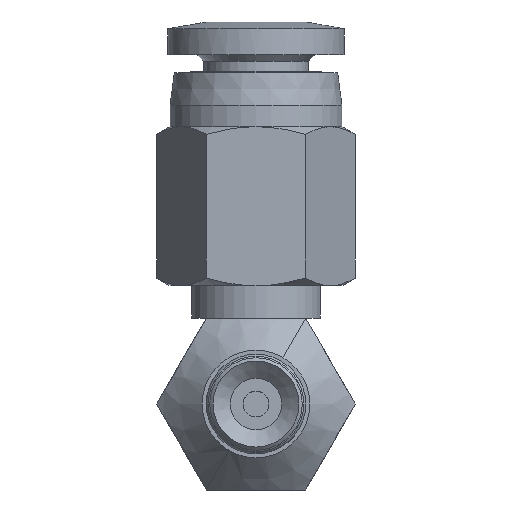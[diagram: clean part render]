
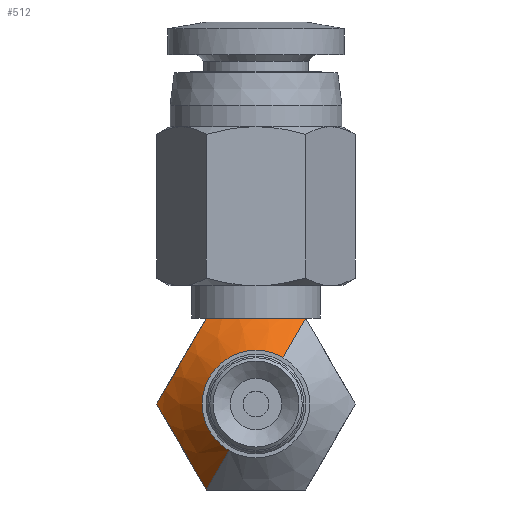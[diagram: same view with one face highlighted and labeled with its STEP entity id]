
A CAD part, front view. The second image highlights one B-rep face of the part: STEP entity #512.
In plain terms, the highlighted conical face has half-angle 45 degrees and reference radius 2.5 mm.
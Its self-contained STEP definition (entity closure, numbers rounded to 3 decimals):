
#512=ADVANCED_FACE('',(#753),#754,.T.);
#753=FACE_OUTER_BOUND('',#1163,.T.);
#754=CONICAL_SURFACE('',#1164,2.5,0.785);
#1163=EDGE_LOOP('',(#2076,#2077,#2078,#2079,#2080,#2081));
#1164=AXIS2_PLACEMENT_3D('',#2082,#2083,#2084);
#2076=ORIENTED_EDGE('',*,*,#2987,.F.);
#2077=ORIENTED_EDGE('',*,*,#2988,.T.);
#2078=ORIENTED_EDGE('',*,*,#2978,.F.);
#2079=ORIENTED_EDGE('',*,*,#2989,.F.);
#2080=ORIENTED_EDGE('',*,*,#2983,.F.);
#2081=ORIENTED_EDGE('',*,*,#2990,.F.);
#2082=CARTESIAN_POINT('',(0.0,0.,0.0));
#2083=DIRECTION('',(-0.0,1.0,0.0));
#2084=DIRECTION('',(0.866,0.0,-0.5));
#2978=EDGE_CURVE('',#3391,#3369,#3392,.T.);
#2983=EDGE_CURVE('',#3400,#3401,#3402,.T.);
#2987=EDGE_CURVE('',#3407,#3408,#3409,.T.);
#2988=EDGE_CURVE('',#3407,#3369,#3410,.T.);
#2989=EDGE_CURVE('',#3401,#3391,#3411,.T.);
#2990=EDGE_CURVE('',#3408,#3400,#3412,.T.);
#3369=VERTEX_POINT('',#4044);
#3391=VERTEX_POINT('',#4094);
#3392=B_SPLINE_CURVE_WITH_KNOTS('',3,(#4095,#4096,#4097,#4098,#4099,#4100,#4101,#4102,#4103,#4104,#4105,#4106),.UNSPECIFIED.,.F.,.F.,(4,2,2,2,2,4),(0.0,0.001,0.002,0.002,0.004,0.005),.UNSPECIFIED.);
#3400=VERTEX_POINT('',#4121);
#3401=VERTEX_POINT('',#4122);
#3402=B_SPLINE_CURVE_WITH_KNOTS('',3,(#4123,#4124,#4125,#4126,#4127,#4128,#4129,#4130,#4131,#4132,#4133,#4134),.UNSPECIFIED.,.F.,.F.,(4,2,2,2,2,4),(0.0,0.001,0.002,0.002,0.004,0.005),.UNSPECIFIED.);
#3407=VERTEX_POINT('',#4144);
#3408=VERTEX_POINT('',#4145);
#3409=CIRCLE('',#4146,2.5);
#3410=LINE('',#4147,#4148);
#3411=B_SPLINE_CURVE_WITH_KNOTS('',3,(#4149,#4150,#4151,#4152,#4153,#4154,#4155,#4156,#4157,#4158,#4159,#4160),.UNSPECIFIED.,.F.,.F.,(4,2,2,2,2,4),(0.,0.001,0.002,0.002,0.004,0.005),.UNSPECIFIED.);
#3412=LINE('',#4161,#4162);
#4044=CARTESIAN_POINT('',(2.309,2.119,4.0));
#4094=CARTESIAN_POINT('',(-2.309,2.119,4.0));
#4095=CARTESIAN_POINT('',(-2.309,2.119,4.0));
#4096=CARTESIAN_POINT('',(-1.949,1.938,4.0));
#4097=CARTESIAN_POINT('',(-1.58,1.785,4.0));
#4098=CARTESIAN_POINT('',(-1.006,1.621,4.0));
#4099=CARTESIAN_POINT('',(-0.812,1.577,4.0));
#4100=CARTESIAN_POINT('',(-0.415,1.517,4.0));
#4101=CARTESIAN_POINT('',(-0.21,1.5,4.0));
#4102=CARTESIAN_POINT('',(0.395,1.499,4.0));
#4103=CARTESIAN_POINT('',(0.791,1.56,4.0));
#4104=CARTESIAN_POINT('',(1.573,1.782,4.0));
#4105=CARTESIAN_POINT('',(1.946,1.937,4.0));
#4106=CARTESIAN_POINT('',(2.309,2.119,4.0));
#4121=CARTESIAN_POINT('',(-2.309,2.119,-4.0));
#4122=CARTESIAN_POINT('',(-4.619,2.119,0.));
#4123=CARTESIAN_POINT('',(-2.309,2.119,-4.0));
#4124=CARTESIAN_POINT('',(-2.49,1.938,-3.687));
#4125=CARTESIAN_POINT('',(-2.674,1.785,-3.368));
#4126=CARTESIAN_POINT('',(-2.961,1.621,-2.871));
#4127=CARTESIAN_POINT('',(-3.058,1.577,-2.703));
#4128=CARTESIAN_POINT('',(-3.257,1.517,-2.359));
#4129=CARTESIAN_POINT('',(-3.359,1.5,-2.182));
#4130=CARTESIAN_POINT('',(-3.661,1.499,-1.658));
#4131=CARTESIAN_POINT('',(-3.86,1.56,-1.315));
#4132=CARTESIAN_POINT('',(-4.25,1.782,-0.638));
#4133=CARTESIAN_POINT('',(-4.437,1.937,-0.314));
#4134=CARTESIAN_POINT('',(-4.619,2.119,0.));
#4144=CARTESIAN_POINT('',(1.25,0.,2.165));
#4145=CARTESIAN_POINT('',(-1.25,0.,-2.165));
#4146=AXIS2_PLACEMENT_3D('',#5071,#5072,#5073);
#4147=CARTESIAN_POINT('',(1.78,1.059,3.083));
#4148=VECTOR('',#5074,1.0);
#4149=CARTESIAN_POINT('',(-4.619,2.119,0.0));
#4150=CARTESIAN_POINT('',(-4.438,1.938,0.313));
#4151=CARTESIAN_POINT('',(-4.254,1.785,0.632));
#4152=CARTESIAN_POINT('',(-3.967,1.621,1.129));
#4153=CARTESIAN_POINT('',(-3.87,1.577,1.297));
#4154=CARTESIAN_POINT('',(-3.671,1.517,1.641));
#4155=CARTESIAN_POINT('',(-3.569,1.5,1.818));
#4156=CARTESIAN_POINT('',(-3.267,1.499,2.342));
#4157=CARTESIAN_POINT('',(-3.069,1.56,2.685));
#4158=CARTESIAN_POINT('',(-2.678,1.782,3.362));
#4159=CARTESIAN_POINT('',(-2.491,1.937,3.686));
#4160=CARTESIAN_POINT('',(-2.309,2.119,4.0));
#4161=CARTESIAN_POINT('',(-1.78,1.059,-3.083));
#4162=VECTOR('',#5075,1.0);
#5071=CARTESIAN_POINT('',(0.0,0.,0.0));
#5072=DIRECTION('',(0.0,-1.0,0.0));
#5073=DIRECTION('',(0.0,0.0,-1.0));
#5074=DIRECTION('',(0.354,0.707,0.612));
#5075=DIRECTION('',(-0.354,0.707,-0.612));
